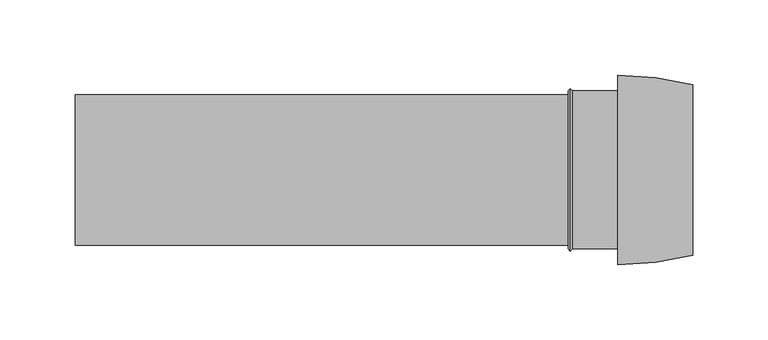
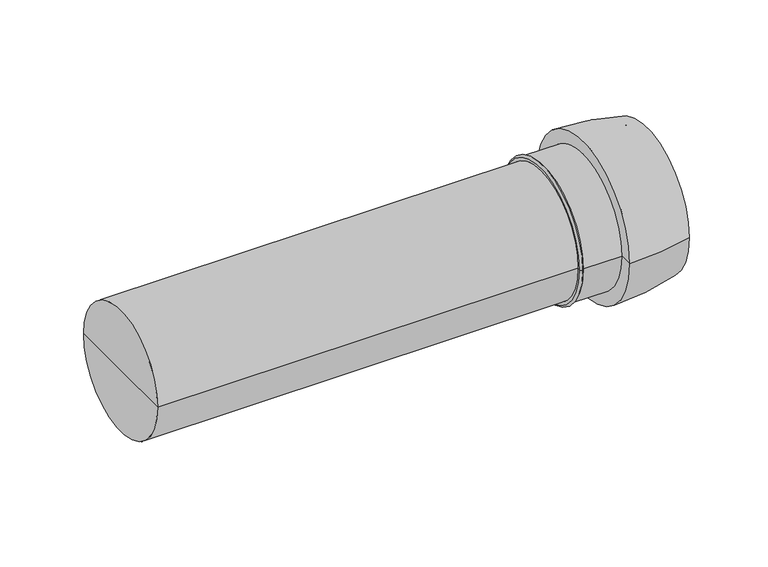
"""IFC4 building model written with IfcOpenShell, lengths in millimetres: duct segment geometry, NLRS_57_AIR_DUF_Easysafe verl pijp PP_M&G : Easysafe verlengpijp."""

from ifc_helpers import new_model, si_unit, point, frame, origin, place, context, project, spatial, polyline, circle_curve, ellipse_curve, trimmed, source, transform, mapped, element, save
from ifc_brep_helpers import plane_surface, cylinder_surface, revolved_surface, advanced_brep


def duct_segment_3d97c253(model_context):
    return source(origin(), model_context, "Body", "AdvancedBrep", [
        advanced_brep(
        [(0.0, 0.0, 0.0), (0.0, 50.0, 0.0), (0.0, -50.0, 0.0), (360.9695174, -63.0, 0.0), (360.9695174, 63.0, 0.0), (410.9695174, 56.6491673, 0.0), (410.9695174, -56.6491673, 0.0), (360.9695174, -52.5, 0.0), (360.9695174, 52.5, 0.0), (330.9695174, -52.5, 0.0), (330.9695174, 52.5, 0.0), (327.9695174, 50.0, 0.0), (327.9695174, -50.0, 0.0), (410.9695174, 50.0, 0.0), (410.9695174, -50.0, 0.0), (329.4695174, -54.0, 0.0), (329.4695174, 54.0, 0.0), (327.9695174, -52.5, 0.0), (327.9695174, 52.5, 0.0), (360.9695174, -50.0, 0.0), (360.9695174, 50.0, 0.0), (360.9695174, 0.0, 0.0)],
        [
            (0, 1),
            (1, 2, circle_curve(frame((0.0, 0.0, 0.0), z_axis=(-1.0, 0.0, 0.0), x_axis=(0.0, 1.0, 0.0)), 50.0)),
            (2, 0),
            (2, 1, circle_curve(frame((0.0, 0.0, 0.0), z_axis=(-1.0, 0.0, 0.0), x_axis=(0.0, 1.0, 0.0)), 50.0)),
            (3, 4, circle_curve(frame((360.9695174, 0.0, 0.0), z_axis=(1.0, 0.0, 0.0), x_axis=(0.0, 1.0, 0.0)), 63.0)),
            (4, 5, circle_curve(frame((360.9695174, -137.0, 0.0), z_axis=(0.0, 0.0, -1.0), x_axis=(1.0, 0.0, 0.0)), 200.0)),
            (5, 6, circle_curve(frame((410.9695174, 0.0, 0.0), z_axis=(-1.0, 0.0, 0.0), x_axis=(0.0, 1.0, 0.0)), 56.6491673)),
            (6, 3, circle_curve(frame((360.9695174, 137.0, 0.0), z_axis=(0.0, 0.0, -1.0), x_axis=(1.0, 0.0, 0.0)), 200.0)),
            (4, 3, circle_curve(frame((360.9695174, 0.0, 0.0), z_axis=(1.0, 0.0, 0.0), x_axis=(0.0, 1.0, 0.0)), 63.0)),
            (6, 5, circle_curve(frame((410.9695174, 0.0, 0.0), z_axis=(-1.0, 0.0, 0.0), x_axis=(0.0, 1.0, 0.0)), 56.6491673)),
            (7, 8, circle_curve(frame((360.9695174, 0.0, 0.0), z_axis=(1.0, 0.0, 0.0), x_axis=(0.0, 1.0, 0.0)), 52.5)),
            (8, 4),
            (3, 7),
            (8, 7, circle_curve(frame((360.9695174, 0.0, 0.0), z_axis=(1.0, 0.0, 0.0), x_axis=(0.0, 1.0, 0.0)), 52.5)),
            (9, 10, circle_curve(frame((330.9695174, 0.0, 0.0), z_axis=(1.0, 0.0, 0.0), x_axis=(0.0, 1.0, 0.0)), 52.5)),
            (10, 8),
            (7, 9),
            (10, 9, circle_curve(frame((330.9695174, 0.0, 0.0), z_axis=(1.0, 0.0, 0.0), x_axis=(0.0, 1.0, 0.0)), 52.5)),
            (1, 11),
            (11, 12, circle_curve(frame((327.9695174, 0.0, 0.0), z_axis=(-1.0, 0.0, 0.0), x_axis=(0.0, 1.0, 0.0)), 50.0)),
            (12, 2),
            (12, 11, circle_curve(frame((327.9695174, 0.0, 0.0), z_axis=(-1.0, 0.0, 0.0), x_axis=(0.0, 1.0, 0.0)), 50.0)),
            (5, 13),
            (13, 14, circle_curve(frame((410.9695174, 0.0, 0.0), z_axis=(-1.0, 0.0, 0.0), x_axis=(0.0, 1.0, 0.0)), 50.0)),
            (14, 6),
            (14, 13, circle_curve(frame((410.9695174, 0.0, 0.0), z_axis=(-1.0, 0.0, 0.0), x_axis=(0.0, 1.0, 0.0)), 50.0)),
            (15, 16, circle_curve(frame((329.4695174, 0.0, 0.0), z_axis=(1.0, 0.0, 0.0), x_axis=(0.0, 1.0, 0.0)), 54.0)),
            (16, 10),
            (9, 15),
            (16, 15, circle_curve(frame((329.4695174, 0.0, 0.0), z_axis=(1.0, 0.0, 0.0), x_axis=(0.0, 1.0, 0.0)), 54.0)),
            (17, 18, circle_curve(frame((327.9695174, 0.0, 0.0), z_axis=(1.0, 0.0, 0.0), x_axis=(0.0, 1.0, 0.0)), 52.5)),
            (18, 16),
            (15, 17),
            (18, 17, circle_curve(frame((327.9695174, 0.0, 0.0), z_axis=(1.0, 0.0, 0.0), x_axis=(0.0, 1.0, 0.0)), 52.5)),
            (11, 18),
            (17, 12),
            (19, 20, circle_curve(frame((360.9695174, 0.0, 0.0), z_axis=(1.0, 0.0, 0.0), x_axis=(0.0, 1.0, 0.0)), 50.0)),
            (20, 21),
            (21, 19),
            (20, 19, circle_curve(frame((360.9695174, 0.0, 0.0), z_axis=(1.0, 0.0, 0.0), x_axis=(0.0, 1.0, 0.0)), 50.0)),
            (13, 20),
            (19, 14),
        ],
        [
            plane_surface(frame((0.0, 0.0, 0.0), z_axis=(-1.0, 0.0, 0.0), x_axis=(0.0, 1.0, 0.0))),
            revolved_surface(trimmed(ellipse_curve(frame((360.9695174, -137.0, 0.0), z_axis=(0.0, 0.0, 1.0), x_axis=(1.0, 0.0, 0.0)), 200.0, 200.0), [point((410.9695174, 56.6491673, 0.0))], [point((360.9695174, 63.0, 0.0))], True, "CARTESIAN"), (-500.0, 0.0, 0.0), (-1.0, 0.0, 0.0)),
            plane_surface(frame((360.9695174, 0.0, 0.0), z_axis=(-1.0, 0.0, 0.0), x_axis=(0.0, 1.0, 0.0))),
            cylinder_surface(frame((-500.0, 0.0, 0.0), z_axis=(-1.0, 0.0, 0.0), x_axis=(0.0, 1.0, 0.0)), 52.5),
            cylinder_surface(frame((-500.0, 0.0, 0.0), z_axis=(-1.0, 0.0, 0.0), x_axis=(0.0, 1.0, 0.0)), 50.0),
            plane_surface(frame((410.9695174, 0.0, 0.0), z_axis=(1.0, 0.0, 0.0), x_axis=(0.0, 1.0, 0.0))),
            revolved_surface(polyline([(330.9695174, 52.5, 0.0), (329.4695174, 54.0, 0.0)]), (-500.0, 0.0, 0.0), (-1.0, 0.0, 0.0)),
            revolved_surface(polyline([(329.4695174, 54.0, 0.0), (327.9695174, 52.5, 0.0)]), (-500.0, 0.0, 0.0), (-1.0, 0.0, 0.0)),
            plane_surface(frame((327.9695174, 0.0, 0.0), z_axis=(-1.0, 0.0, 0.0), x_axis=(0.0, 1.0, 0.0))),
            plane_surface(frame((360.9695174, 0.0, 0.0), z_axis=(1.0, 0.0, 0.0), x_axis=(0.0, 1.0, 0.0))),
            revolved_surface(polyline([(360.9695174, 50.0, 0.0), (410.9695174, 50.0, 0.0)]), (-500.0, 0.0, 0.0), (-1.0, 0.0, 0.0)),
        ],
        [
            (0, [[1, 2, 3]]),
            (0, [[-3, 4, -1]]),
            (1, [[5, 6, 7, 8]]),
            (1, [[9, -8, 10, -6]]),
            (2, [[11, 12, -5, 13]]),
            (2, [[14, -13, -9, -12]]),
            (3, [[15, 16, -11, 17]]),
            (3, [[18, -17, -14, -16]]),
            (4, [[-2, 19, 20, 21]]),
            (4, [[-4, -21, 22, -19]]),
            (5, [[-7, 23, 24, 25]]),
            (5, [[-10, -25, 26, -23]]),
            (6, [[27, 28, -15, 29]]),
            (6, [[30, -29, -18, -28]]),
            (7, [[31, 32, -27, 33]]),
            (7, [[34, -33, -30, -32]]),
            (8, [[-20, 35, -31, 36]]),
            (8, [[-22, -36, -34, -35]]),
            (9, [[37, 38, 39]]),
            (9, [[40, -39, -38]]),
            (10, [[-24, 41, -37, 42]]),
            (10, [[-26, -42, -40, -41]]),
        ],
    ),
    ])


if __name__ == "__main__":
    model = new_model("IFC4")
    model_context = context("Model", 3, world=origin())
    ifc_project = project(units=[si_unit("LENGTHUNIT", "METRE", prefix="MILLI")], contexts=[model_context])
    site = spatial("IfcSite", under=ifc_project)
    building = spatial("IfcBuilding", under=site)
    placement = place(None, origin())
    duct_segment_shape = duct_segment_3d97c253(model_context)
    element("IfcDuctSegment", 1, ObjectType="NLRS_57_AIR_DUF_Easysafe verl pijp PP_M&G : Easysafe verlengpijp", at=placement, inside=building, context=model_context, shape_type="MappedRepresentation", body=[
        mapped(duct_segment_shape, transform((0.0, 0.0, 0.0), x_axis=(1.0, 0.0, 0.0), y_axis=(0.0, 1.0, 0.0), z_axis=(0.0, 0.0, 1.0))),
    ])
    save(model, "model.ifc")
